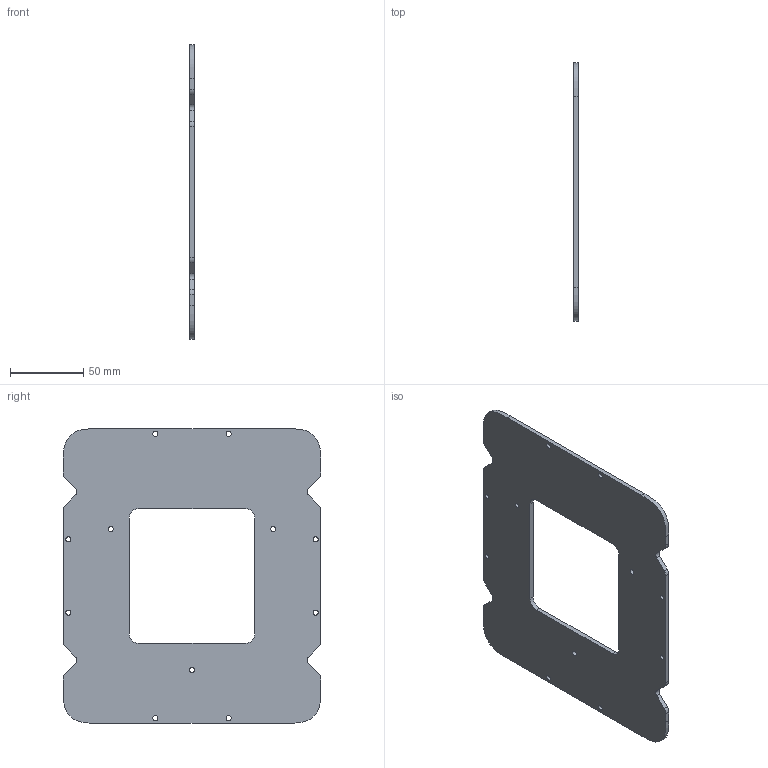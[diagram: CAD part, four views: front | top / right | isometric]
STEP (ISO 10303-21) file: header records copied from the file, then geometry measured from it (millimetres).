
FILE_DESCRIPTION(/* description */ (''),/* implementation_level */ '2;1');
FILE_NAME(/* name */ 'BACK EXTERNAL PANEL.step',/* time_stamp */ '2024-02-28T17:29:17Z',/* author */ (''),/* organization */ (''),/* preprocessor_version */ 'ST-DEVELOPER v20',/* originating_system */ 'Autodesk Translation Framework v12.20.1.177',/* authorisation */ '');
FILE_SCHEMA (('AUTOMOTIVE_DESIGN { 1 0 10303 214 3 1 1 }'));
Length unit declared in the file: millimetre
Products named in the file (1): BACK EXTERNAL PANEL
Bounding box: 3 x 176 x 201 mm (x, y, z)
Volume: 80161.7 mm3; surface area: 57095.1 mm2
Topology: 1 solids, 1 shells, 53 faces, 153 edges, 102 vertices
Faces by surface type: cylinder 27, plane 22, bspline 4
Full cylindrical faces by diameter (mm): 3.5 x11
Entity records: 2065 total; most frequent: CARTESIAN_POINT 553, ORIENTED_EDGE 306, DIRECTION 299, EDGE_CURVE 153, AXIS2_PLACEMENT_3D 104, VERTEX_POINT 102, LINE 91, VECTOR 91
